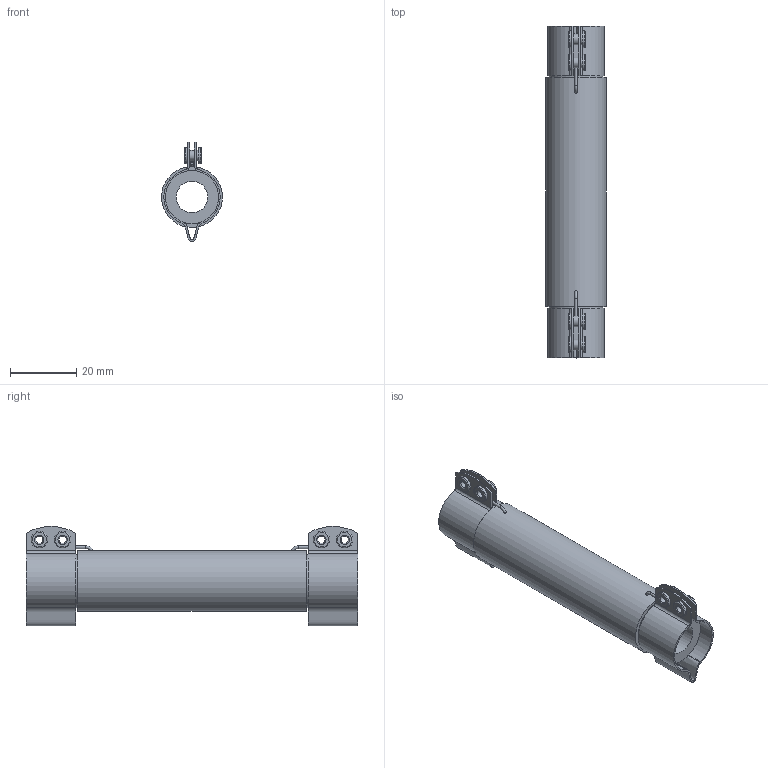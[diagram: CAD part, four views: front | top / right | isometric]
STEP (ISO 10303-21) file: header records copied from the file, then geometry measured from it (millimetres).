
FILE_DESCRIPTION(/* description */ (''),/* implementation_level */ '2;1');
FILE_NAME(/* name */ 'C:\_Vault\Dati\CATALOGO\RC-RS\TF\RS1050.stp',/* time_stamp */ '2014-01-29T14:35:01+01:00',/* author */ ('stefano'),/* organization */ (''),/* preprocessor_version */ 'ST-DEVELOPER v15.2',/* originating_system */ 'Autodesk Inventor 2014',/* authorisation */ '');
FILE_SCHEMA (('AUTOMOTIVE_DESIGN { 1 0 10303 214 3 1 1 }'));
Length unit declared in the file: millimetre
Products named in the file (1): RS1050
Bounding box: 18.33 x 100 x 29.88 mm (x, y, z)
Volume: 17305.2 mm3; surface area: 11401.8 mm2
Topology: 1 solids, 5 shells, 122 faces, 285 edges, 185 vertices
Faces by surface type: cylinder 52, plane 44, torus 18, bspline 8
Full cylindrical faces by diameter (mm): 0.4 x2, 0.8 x4, 2.2 x4, 3.2 x8, 5 x8, 9.5 x1, 16 x2, 18.35 x1
Entity records: 3839 total; most frequent: CARTESIAN_POINT 1039, DIRECTION 554, ORIENTED_EDGE 456, AXIS2_PLACEMENT_3D 239, EDGE_CURVE 228, EDGE_LOOP 208, VERTEX_POINT 176, CIRCLE 124
